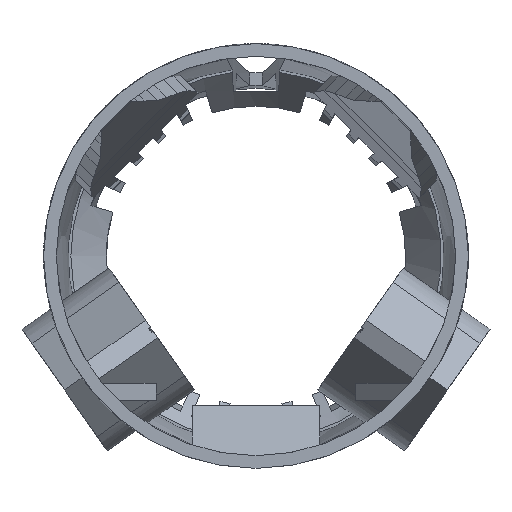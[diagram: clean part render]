
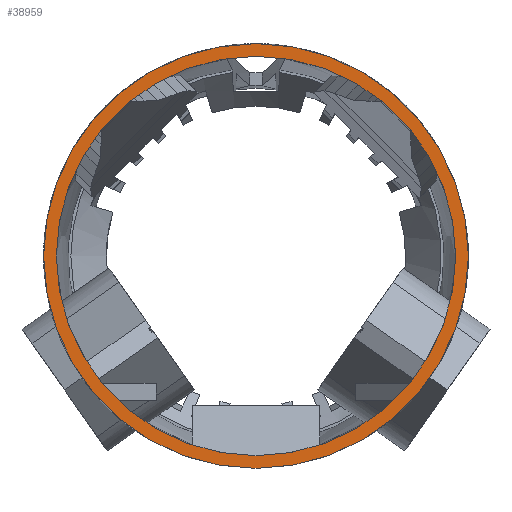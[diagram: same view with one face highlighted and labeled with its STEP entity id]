
A CAD part, left-side view. The second image highlights one B-rep face of the part: STEP entity #38959.
In plain terms, the highlighted planar face has unit normal (-1, 0, 0).
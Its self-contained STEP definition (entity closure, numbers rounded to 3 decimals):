
#21 = EDGE_CURVE('',#22,#22,#24,.T.);
#22 = VERTEX_POINT('',#23);
#23 = CARTESIAN_POINT('',(350.,20.,0.));
#24 = SURFACE_CURVE('',#25,(#30,#42),.PCURVE_S1.);
#25 = CIRCLE('',#26,20.);
#26 = AXIS2_PLACEMENT_3D('',#27,#28,#29);
#27 = CARTESIAN_POINT('',(350.,0.,0.));
#28 = DIRECTION('',(1.,0.,0.));
#29 = DIRECTION('',(-0.,1.,0.));
#30 = PCURVE('',#31,#36);
#31 = CYLINDRICAL_SURFACE('',#32,20.);
#32 = AXIS2_PLACEMENT_3D('',#33,#34,#35);
#33 = CARTESIAN_POINT('',(42.,0.,0.));
#34 = DIRECTION('',(1.,0.,0.));
#35 = DIRECTION('',(-0.,1.,0.));
#36 = DEFINITIONAL_REPRESENTATION('',(#37),#41);
#37 = LINE('',#38,#39);
#38 = CARTESIAN_POINT('',(0.,308.));
#39 = VECTOR('',#40,1.);
#40 = DIRECTION('',(1.,0.));
#41 = ( GEOMETRIC_REPRESENTATION_CONTEXT(2) 
PARAMETRIC_REPRESENTATION_CONTEXT() REPRESENTATION_CONTEXT('2D SPACE',''
  ) );
#42 = PCURVE('',#43,#48);
#43 = PLANE('',#44);
#44 = AXIS2_PLACEMENT_3D('',#45,#46,#47);
#45 = CARTESIAN_POINT('',(350.,-60.,-120.));
#46 = DIRECTION('',(1.,0.,-0.));
#47 = DIRECTION('',(0.,0.,1.));
#48 = DEFINITIONAL_REPRESENTATION('',(#49),#53);
#49 = CIRCLE('',#50,20.);
#50 = AXIS2_PLACEMENT_2D('',#51,#52);
#51 = CARTESIAN_POINT('',(120.,-60.));
#52 = DIRECTION('',(0.,-1.));
#53 = ( GEOMETRIC_REPRESENTATION_CONTEXT(2) 
PARAMETRIC_REPRESENTATION_CONTEXT() REPRESENTATION_CONTEXT('2D SPACE',''
  ) );
#4760 = CYLINDRICAL_SURFACE('',#4761,18.8);
#4761 = AXIS2_PLACEMENT_3D('',#4762,#4763,#4764);
#4762 = CARTESIAN_POINT('',(42.,0.,0.));
#4763 = DIRECTION('',(1.,0.,0.));
#4764 = DIRECTION('',(-0.,1.,0.));
#8584 = VERTEX_POINT('',#8585);
#8585 = CARTESIAN_POINT('',(350.,18.8,0.));
#8606 = EDGE_CURVE('',#8584,#8584,#8607,.T.);
#8607 = SURFACE_CURVE('',#8608,(#8613,#8620),.PCURVE_S1.);
#8608 = CIRCLE('',#8609,18.8);
#8609 = AXIS2_PLACEMENT_3D('',#8610,#8611,#8612);
#8610 = CARTESIAN_POINT('',(350.,0.,0.));
#8611 = DIRECTION('',(1.,0.,0.));
#8612 = DIRECTION('',(-0.,1.,0.));
#8613 = PCURVE('',#4760,#8614);
#8614 = DEFINITIONAL_REPRESENTATION('',(#8615),#8619);
#8615 = LINE('',#8616,#8617);
#8616 = CARTESIAN_POINT('',(0.,308.));
#8617 = VECTOR('',#8618,1.);
#8618 = DIRECTION('',(1.,0.));
#8619 = ( GEOMETRIC_REPRESENTATION_CONTEXT(2) 
PARAMETRIC_REPRESENTATION_CONTEXT() REPRESENTATION_CONTEXT('2D SPACE',''
  ) );
#8620 = PCURVE('',#43,#8621);
#8621 = DEFINITIONAL_REPRESENTATION('',(#8622),#8626);
#8622 = CIRCLE('',#8623,18.8);
#8623 = AXIS2_PLACEMENT_2D('',#8624,#8625);
#8624 = CARTESIAN_POINT('',(120.,-60.));
#8625 = DIRECTION('',(0.,-1.));
#8626 = ( GEOMETRIC_REPRESENTATION_CONTEXT(2) 
PARAMETRIC_REPRESENTATION_CONTEXT() REPRESENTATION_CONTEXT('2D SPACE',''
  ) );
#38959 = ADVANCED_FACE('',(#38960,#38963),#43,.F.);
#38960 = FACE_BOUND('',#38961,.F.);
#38961 = EDGE_LOOP('',(#38962));
#38962 = ORIENTED_EDGE('',*,*,#21,.T.);
#38963 = FACE_BOUND('',#38964,.F.);
#38964 = EDGE_LOOP('',(#38965));
#38965 = ORIENTED_EDGE('',*,*,#8606,.F.);
